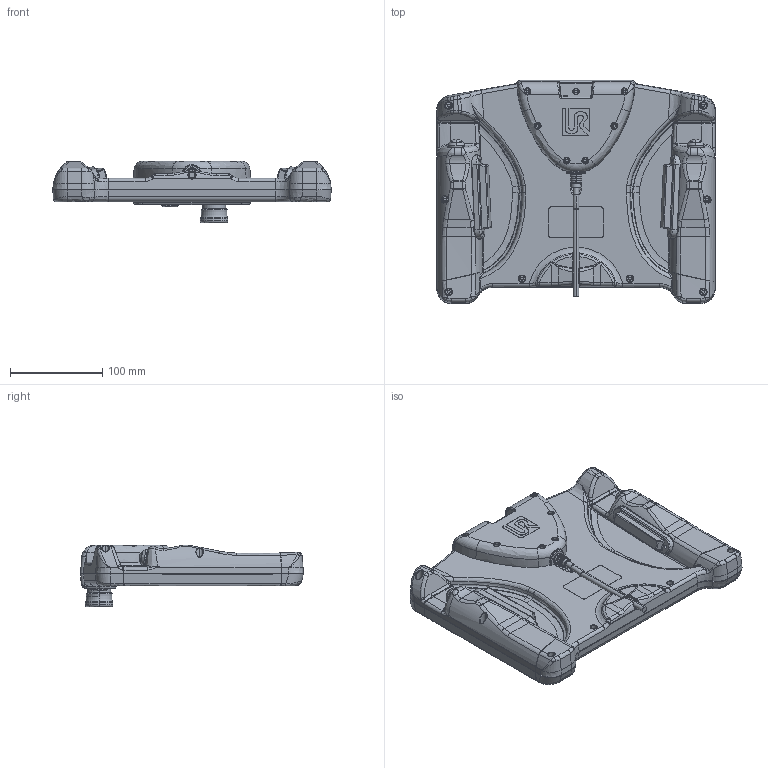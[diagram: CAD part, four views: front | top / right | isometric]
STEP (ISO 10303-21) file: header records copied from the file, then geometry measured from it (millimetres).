
FILE_DESCRIPTION (( 'STEP AP203' ), '1' );
FILE_NAME ('Filled_new6.STEP', '2026-10-09T05:20:45', ( '' ), ( '' ), 'SwSTEP 2.0', 'SolidWorks 2025', '' );
FILE_SCHEMA (( 'CONFIG_CONTROL_DESIGN' ));
Length unit declared in the file: millimetre
Products named in the file (1): Filled_new6
Bounding box: 302 x 242.03 x 66.7 mm (x, y, z)
Volume: 2122559.4 mm3; surface area: 389197.6 mm2
Topology: 4 solids, 11 shells, 2529 faces, 6350 edges, 3950 vertices
Faces by surface type: plane 936, cylinder 591, bspline 568, cone 241, torus 157, sphere 36
Entity records: 133891 total; most frequent: CARTESIAN_POINT 80026, ORIENTED_EDGE 12666, DIRECTION 8932, EDGE_CURVE 6333, VERTEX_POINT 3945, AXIS2_PLACEMENT_3D 3240, EDGE_LOOP 2674, FACE_OUTER_BOUND 2530
